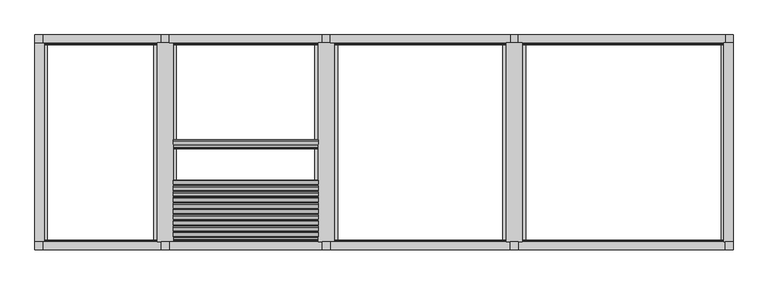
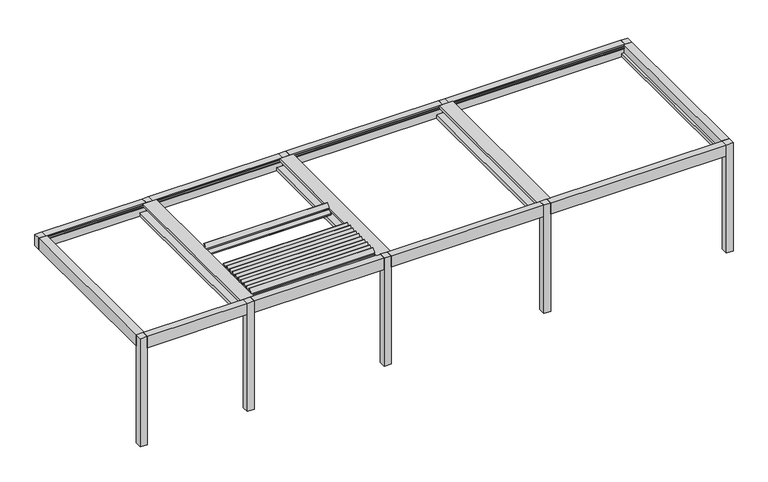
"""IFC4 building model written with IfcOpenShell, lengths in millimetres: proxy geometry, Renson_Camargue_Skye_Facade-Mounted_Patio covers : Renson_Camargue_Skye_Facade-Mounted_Patio covers."""

import ifcopenshell
import ifcopenshell.guid

model = None  # the IFC model being written
_history = None  # IfcOwnerHistory: only IFC2X3 demands one
_inside = {}  # id of a spatial element -> (the spatial element, [elements in it])
_under = {}  # id of a project, library or spatial element -> (it, [spatial elements below it])
_declared = {}  # id of a project -> (the project, [libraries it declares])
_typed = {}  # id of a type object -> (the type object, [elements of that type])
_made_of = {}  # id of a material, layer set ... -> (it, [elements and type objects made of it])


def new_model(schema):
    """Start an empty IFC model of exactly this schema.

    Asked for "IFC4X3", IfcOpenShell would pick the latest addendum, in which some entities
    have other attributes; the version numbers below select the first issue.
    IFC2X3 requires an IfcOwnerHistory on every rooted entity: one is made here for all.
    """
    global model, _history
    if schema == "IFC4X3":
        model = ifcopenshell.file(schema_version=(4, 3, 0, 0))
    else:
        model = ifcopenshell.file(schema=schema)
    _inside.clear()
    _under.clear()
    _declared.clear()
    _typed.clear()
    _made_of.clear()
    _history = None
    if model.schema == "IFC2X3":
        org = make("IfcOrganization", Name="unknown")
        user = make(
            "IfcPersonAndOrganization",
            ThePerson=make("IfcPerson", FamilyName="unknown"),
            TheOrganization=org,
        )
        app = make(
            "IfcApplication",
            ApplicationDeveloper=org,
            Version="unknown",
            ApplicationFullName="unknown",
            ApplicationIdentifier="unknown",
        )
        _history = make(
            "IfcOwnerHistory",
            OwningUser=user,
            OwningApplication=app,
            ChangeAction="ADDED",
            CreationDate=0,
        )
    return model


def make(cls, **values):
    """One entity of the class cls with the attributes given. An attribute that is None is left unset."""
    return model.create_entity(
        cls, **{name: value for name, value in values.items() if value is not None}
    )


def rooted(cls, **values):
    """An entity with a GlobalId (a new one), such as an element, a storey or a relation."""
    return make(cls, GlobalId=ifcopenshell.guid.new(), OwnerHistory=_history, **values)


def si_unit(unit_type, name, prefix=None):
    """IfcSIUnit, for example si_unit("LENGTHUNIT", "METRE", prefix="MILLI")."""
    return make("IfcSIUnit", UnitType=unit_type, Prefix=prefix, Name=name)


def assignment(units):
    """IfcUnitAssignment: the units of a project."""
    return None if units is None else make("IfcUnitAssignment", Units=units)


def point(xyz):
    """IfcCartesianPoint."""
    return None if xyz is None else make("IfcCartesianPoint", Coordinates=xyz)


def direction(xyz):
    """IfcDirection."""
    return None if xyz is None else make("IfcDirection", DirectionRatios=xyz)


def frame(location, z_axis=None, x_axis=None):
    """IfcAxis2Placement3D, a coordinate frame: its origin and axes. An axis left out is left unset."""
    return make(
        "IfcAxis2Placement3D",
        Location=point(location),
        Axis=direction(z_axis),
        RefDirection=direction(x_axis),
    )


def frame_2d(location, x_axis=None):
    """IfcAxis2Placement2D, a coordinate frame in the plane: its origin and x axis."""
    return make(
        "IfcAxis2Placement2D", Location=point(location), RefDirection=direction(x_axis)
    )


def origin():
    """The frame at (0, 0, 0) with its axes left unset."""
    return frame((0.0, 0.0, 0.0))


def origin_with_axes():
    """The frame at (0, 0, 0) with the z axis (0, 0, 1) and the x axis (1, 0, 0) written out."""
    return frame((0.0, 0.0, 0.0), z_axis=(0.0, 0.0, 1.0), x_axis=(1.0, 0.0, 0.0))


def place(relative_to, where):
    """IfcLocalPlacement: puts the frame where relative to a parent placement (None: the world)."""
    return make(
        "IfcLocalPlacement", PlacementRelTo=relative_to, RelativePlacement=where
    )


def context(
    kind, dimensions, precision=None, world=None, true_north=None, identifier=None
):
    """IfcGeometricRepresentationContext, for example the 3D "Model" context."""
    return make(
        "IfcGeometricRepresentationContext",
        ContextIdentifier=identifier,
        ContextType=kind,
        CoordinateSpaceDimension=dimensions,
        Precision=precision,
        WorldCoordinateSystem=world,
        TrueNorth=true_north,
    )


def project(units=None, contexts=None):
    """IfcProject with its units and contexts."""
    return rooted(
        "IfcProject",
        Name="project",
        RepresentationContexts=contexts,
        UnitsInContext=assignment(units),
    )


def spatial(cls, under=None, at=None, **own):
    """A site, building, storey or space (cls), placed at a placement, below another one or the project."""
    s = rooted(cls, ObjectPlacement=at, **own)
    if under is not None:
        _under.setdefault(under.id(), (under, []))[1].append(s)
    return s


def polyline(points):
    """IfcPolyline through the points."""
    return make("IfcPolyline", Points=[point(p) for p in points])


def circle_curve(where, radius):
    """IfcCircle in the frame where."""
    return make("IfcCircle", Position=where, Radius=radius)


def trimmed(basis, trim1, trim2, sense, master):
    """IfcTrimmedCurve: the piece of a basis curve between two trims."""
    return make(
        "IfcTrimmedCurve",
        BasisCurve=basis,
        Trim1=trim1,
        Trim2=trim2,
        SenseAgreement=sense,
        MasterRepresentation=master,
    )


def segment(curve, same_sense, transition):
    """IfcCompositeCurveSegment."""
    return make(
        "IfcCompositeCurveSegment",
        Transition=transition,
        SameSense=same_sense,
        ParentCurve=curve,
    )


def composite_curve(segments, self_intersect=None):
    """IfcCompositeCurve: segments joined end to end."""
    return make("IfcCompositeCurve", Segments=segments, SelfIntersect=self_intersect)


def outline(outer, holes=None, kind="AREA"):
    """IfcArbitraryClosedProfileDef: a profile drawn as a closed curve; with holes, ...WithVoids."""
    if holes is None:
        return make("IfcArbitraryClosedProfileDef", ProfileType=kind, OuterCurve=outer)
    return make(
        "IfcArbitraryProfileDefWithVoids",
        ProfileType=kind,
        OuterCurve=outer,
        InnerCurves=holes,
    )


def extrude(swept, where, along, depth):
    """IfcExtrudedAreaSolid: the profile swept, set in the frame where, extruded along a direction by depth."""
    return make(
        "IfcExtrudedAreaSolid",
        SweptArea=swept,
        Position=where,
        ExtrudedDirection=direction(along),
        Depth=depth,
    )


def shape(context_of_items, identifier, shape_type, items):
    """IfcShapeRepresentation: the items that make up one representation, for example the "Body"."""
    return make(
        "IfcShapeRepresentation",
        ContextOfItems=context_of_items,
        RepresentationIdentifier=identifier,
        RepresentationType=shape_type,
        Items=items,
    )


def source(mapping_origin, context_of_items, identifier, shape_type, items):
    """IfcRepresentationMap: a shape defined once, which mapped items show again and again."""
    return make(
        "IfcRepresentationMap",
        MappingOrigin=mapping_origin,
        MappedRepresentation=shape(context_of_items, identifier, shape_type, items),
    )


def transform(
    local_origin,
    x_axis=None,
    y_axis=None,
    z_axis=None,
    scale=None,
    scale2=None,
    scale3=None,
    uniform=True,
):
    """IfcCartesianTransformationOperator3D, or its non-uniform kind. x_axis, y_axis, z_axis: its Axis1, 2, 3."""
    if uniform:
        return make(
            "IfcCartesianTransformationOperator3D",
            Axis1=direction(x_axis),
            Axis2=direction(y_axis),
            LocalOrigin=point(local_origin),
            Scale=scale,
            Axis3=direction(z_axis),
        )
    return make(
        "IfcCartesianTransformationOperator3DnonUniform",
        Axis1=direction(x_axis),
        Axis2=direction(y_axis),
        LocalOrigin=point(local_origin),
        Scale=scale,
        Axis3=direction(z_axis),
        Scale2=scale2,
        Scale3=scale3,
    )


def mapped(mapping_source, mapping_target):
    """IfcMappedItem: shows the shape of a source again, moved by a transform."""
    return make(
        "IfcMappedItem", MappingSource=mapping_source, MappingTarget=mapping_target
    )


def made_of(thing, what):
    """Note that an element or type object is made of a material, layer set ...; save() writes the relation."""
    if what is not None:
        _made_of.setdefault(what.id(), (what, []))[1].append(thing)
    return thing


def element(
    cls,
    number,
    at=None,
    inside=None,
    cuts=None,
    type_object=None,
    material=None,
    context=None,
    identifier="Body",
    shape_type=None,
    held_by="IfcProductDefinitionShape",
    body=None,
    shapes=None,
    **own,
):
    """One element of the class cls, such as IfcWall. Its Tag is "e" and its number.

    at: its placement. inside: the storey or other place that contains it. cuts: it is an
    opening in that element (IfcRelVoidsElement). A single representation is given by context,
    identifier, shape_type and body (its items); several are given by shapes. held_by: the class
    of the entity that holds the representations. save() writes the other relations.
    """
    e = rooted(cls, Tag="e%d" % number, ObjectPlacement=at, **own)
    if body is not None:
        shapes = [shape(context, identifier, shape_type, body)]
    if shapes is not None:
        e.Representation = make(held_by, Representations=shapes)
    if inside is not None:
        _inside.setdefault(inside.id(), (inside, []))[1].append(e)
    if cuts is not None:
        rooted(
            "IfcRelVoidsElement", RelatingBuildingElement=cuts, RelatedOpeningElement=e
        )
    if type_object is not None:
        _typed.setdefault(type_object.id(), (type_object, []))[1].append(e)
    return made_of(e, material)


def aggregate(whole, parts):
    """IfcRelAggregates: a whole, such as a stair, and the parts it consists of."""
    return rooted("IfcRelAggregates", RelatingObject=whole, RelatedObjects=parts)


def save(model, path):
    """Write the relations noted so far, then the file.

    IfcRelAggregates (storeys below a building ...), IfcRelContainedInSpatialStructure (elements
    in a storey), IfcRelDefinesByType, IfcRelAssociatesMaterial and IfcRelDeclares: one each for
    every whole, place, type object, material and project.
    """
    for whole, parts in _under.values():
        aggregate(whole, parts)
    for where, things in _inside.values():
        rooted(
            "IfcRelContainedInSpatialStructure",
            RelatedElements=things,
            RelatingStructure=where,
        )
    for kind, things in _typed.values():
        rooted("IfcRelDefinesByType", RelatedObjects=things, RelatingType=kind)
    for what, things in _made_of.values():
        rooted("IfcRelAssociatesMaterial", RelatedObjects=things, RelatingMaterial=what)
    for by, libraries in _declared.values():
        rooted("IfcRelDeclares", RelatingContext=by, RelatedDefinitions=libraries)
    model.write(path)


def generic_models_c182b0fb(model_context):
    return source(origin(), model_context, "Body", "SweptSolid", [
        extrude(outline(composite_curve([segment(polyline([(-704.7212384, 2532.0835122), (-851.8670993, 2384.9376513), (-869.9306875, 2406.4649975), (-859.6471169, 2417.7863257), (-845.4411429, 2407.8391957), (-783.4025807, 2469.8777579), (-794.6023565, 2485.8726953)]), True, "CONTINUOUS"), segment(trimmed(circle_curve(frame_2d((-782.3150759, 2494.4763419)), 15.0), [point((-794.6023565, 2485.8726953))], [point((-793.4183478, 2504.561844))], False, "CARTESIAN"), True, "CONTINUOUS"), segment(polyline([(-793.4183478, 2504.561844), (-719.3746691, 2586.077577), (-703.1597177, 2574.7237457), (-722.569936, 2553.3547618), (-704.7212384, 2532.0835122)]), True, "CONTINUOUS")], self_intersect=False)), frame((1323.0, 0.0, 0.0), z_axis=(1.0, 0.0, 0.0), x_axis=(0.0, 1.0, 0.0)), (0.0, 0.0, 1.0), 2705.0),
        extrude(outline(composite_curve([segment(polyline([(-812.2320431, 2532.0835122), (-959.3779041, 2384.9376513), (-977.4414923, 2406.4649975), (-967.1579217, 2417.7863257), (-952.9519477, 2407.8391957), (-890.9133855, 2469.8777579), (-902.1131613, 2485.8726953)]), True, "CONTINUOUS"), segment(trimmed(circle_curve(frame_2d((-889.8258807, 2494.4763419)), 15.0), [point((-902.1131613, 2485.8726953))], [point((-900.9291526, 2504.561844))], False, "CARTESIAN"), True, "CONTINUOUS"), segment(polyline([(-900.9291526, 2504.561844), (-826.8854739, 2586.077577), (-810.6705224, 2574.7237457), (-830.0807408, 2553.3547618), (-812.2320431, 2532.0835122)]), True, "CONTINUOUS")], self_intersect=False)), frame((1323.0, 0.0, 0.0), z_axis=(1.0, 0.0, 0.0), x_axis=(0.0, 1.0, 0.0)), (0.0, 0.0, 1.0), 2705.0),
        extrude(outline(composite_curve([segment(polyline([(-919.7428479, 2532.0835122), (-1066.8887088, 2384.9376513), (-1084.9522971, 2406.4649975), (-1074.6687265, 2417.7863257), (-1060.4627525, 2407.8391957), (-998.4241903, 2469.8777579), (-1009.6239661, 2485.8726953)]), True, "CONTINUOUS"), segment(trimmed(circle_curve(frame_2d((-997.3366854, 2494.4763419)), 15.0), [point((-1009.6239661, 2485.8726953))], [point((-1008.4399574, 2504.561844))], False, "CARTESIAN"), True, "CONTINUOUS"), segment(polyline([(-1008.4399574, 2504.561844), (-934.3962787, 2586.077577), (-918.1813272, 2574.7237457), (-937.5915456, 2553.3547618), (-919.7428479, 2532.0835122)]), True, "CONTINUOUS")], self_intersect=False)), frame((1323.0, 0.0, 0.0), z_axis=(1.0, 0.0, 0.0), x_axis=(0.0, 1.0, 0.0)), (0.0, 0.0, 1.0), 2705.0),
        extrude(outline(composite_curve([segment(polyline([(-1027.2536527, 2532.0835122), (-1174.3995136, 2384.9376513), (-1192.4631018, 2406.4649975), (-1182.1795313, 2417.7863257), (-1167.9735573, 2407.8391957), (-1105.9349951, 2469.8777579), (-1117.1347709, 2485.8726953)]), True, "CONTINUOUS"), segment(trimmed(circle_curve(frame_2d((-1104.8474902, 2494.4763419)), 15.0), [point((-1117.1347709, 2485.8726953))], [point((-1115.9507621, 2504.561844))], False, "CARTESIAN"), True, "CONTINUOUS"), segment(polyline([(-1115.9507621, 2504.561844), (-1041.9070835, 2586.077577), (-1025.692132, 2574.7237457), (-1045.1023504, 2553.3547618), (-1027.2536527, 2532.0835122)]), True, "CONTINUOUS")], self_intersect=False)), frame((1323.0, 0.0, 0.0), z_axis=(1.0, 0.0, 0.0), x_axis=(0.0, 1.0, 0.0)), (0.0, 0.0, 1.0), 2705.0),
        extrude(outline(composite_curve([segment(polyline([(-1134.7644575, 2532.0835122), (-1281.9103184, 2384.9376513), (-1299.9739066, 2406.4649975), (-1289.6903361, 2417.7863257), (-1275.4843621, 2407.8391957), (-1213.4457999, 2469.8777579), (-1224.6455757, 2485.8726953)]), True, "CONTINUOUS"), segment(trimmed(circle_curve(frame_2d((-1212.358295, 2494.4763419)), 15.0), [point((-1224.6455757, 2485.8726953))], [point((-1223.4615669, 2504.561844))], False, "CARTESIAN"), True, "CONTINUOUS"), segment(polyline([(-1223.4615669, 2504.561844), (-1149.4178883, 2586.077577), (-1133.2029368, 2574.7237457), (-1152.6131551, 2553.3547618), (-1134.7644575, 2532.0835122)]), True, "CONTINUOUS")], self_intersect=False)), frame((1323.0, 0.0, 0.0), z_axis=(1.0, 0.0, 0.0), x_axis=(0.0, 1.0, 0.0)), (0.0, 0.0, 1.0), 2705.0),
        extrude(outline(composite_curve([segment(polyline([(-1242.2752623, 2532.0835122), (-1389.4211232, 2384.9376513), (-1407.4847114, 2406.4649975), (-1397.2011408, 2417.7863257), (-1382.9951668, 2407.8391957), (-1320.9566047, 2469.8777579), (-1332.1563804, 2485.8726953)]), True, "CONTINUOUS"), segment(trimmed(circle_curve(frame_2d((-1319.8690998, 2494.4763419)), 15.0), [point((-1332.1563804, 2485.8726953))], [point((-1330.9723717, 2504.561844))], False, "CARTESIAN"), True, "CONTINUOUS"), segment(polyline([(-1330.9723717, 2504.561844), (-1256.9286931, 2586.077577), (-1240.7137416, 2574.7237457), (-1260.1239599, 2553.3547618), (-1242.2752623, 2532.0835122)]), True, "CONTINUOUS")], self_intersect=False)), frame((1323.0, 0.0, 0.0), z_axis=(1.0, 0.0, 0.0), x_axis=(0.0, 1.0, 0.0)), (0.0, 0.0, 1.0), 2705.0),
        extrude(outline(composite_curve([segment(polyline([(-1349.786067, 2532.0835122), (-1496.931928, 2384.9376513), (-1514.9955162, 2406.4649975), (-1504.7119456, 2417.7863257), (-1490.5059716, 2407.8391957), (-1428.4674094, 2469.8777579), (-1439.6671852, 2485.8726953)]), True, "CONTINUOUS"), segment(trimmed(circle_curve(frame_2d((-1427.3799046, 2494.4763419)), 15.0), [point((-1439.6671852, 2485.8726953))], [point((-1438.4831765, 2504.561844))], False, "CARTESIAN"), True, "CONTINUOUS"), segment(polyline([(-1438.4831765, 2504.561844), (-1364.4394978, 2586.077577), (-1348.2245463, 2574.7237457), (-1367.6347647, 2553.3547618), (-1349.786067, 2532.0835122)]), True, "CONTINUOUS")], self_intersect=False)), frame((1323.0, 0.0, 0.0), z_axis=(1.0, 0.0, 0.0), x_axis=(0.0, 1.0, 0.0)), (0.0, 0.0, 1.0), 2705.0),
        extrude(outline(composite_curve([segment(polyline([(-1457.2968718, 2532.0835122), (-1604.4427327, 2384.9376513), (-1622.506321, 2406.4649975), (-1612.2227504, 2417.7863257), (-1598.0167764, 2407.8391957), (-1535.9782142, 2469.8777579), (-1547.17799, 2485.8726953)]), True, "CONTINUOUS"), segment(trimmed(circle_curve(frame_2d((-1534.8907093, 2494.4763419)), 15.0), [point((-1547.17799, 2485.8726953))], [point((-1545.9939813, 2504.561844))], False, "CARTESIAN"), True, "CONTINUOUS"), segment(polyline([(-1545.9939813, 2504.561844), (-1471.9503026, 2586.077577), (-1455.7353511, 2574.7237457), (-1475.1455695, 2553.3547618), (-1457.2968718, 2532.0835122)]), True, "CONTINUOUS")], self_intersect=False)), frame((1323.0, 0.0, 0.0), z_axis=(1.0, 0.0, 0.0), x_axis=(0.0, 1.0, 0.0)), (0.0, 0.0, 1.0), 2705.0),
        extrude(outline(composite_curve([segment(polyline([(-1564.8076766, 2532.0835122), (-1711.9535375, 2384.9376513), (-1730.0171257, 2406.4649975), (-1719.7335552, 2417.7863257), (-1705.5275812, 2407.8391957), (-1643.489019, 2469.8777579), (-1654.6887948, 2485.8726953)]), True, "CONTINUOUS"), segment(trimmed(circle_curve(frame_2d((-1642.4015141, 2494.4763419)), 15.0), [point((-1654.6887948, 2485.8726953))], [point((-1653.504786, 2504.561844))], False, "CARTESIAN"), True, "CONTINUOUS"), segment(polyline([(-1653.504786, 2504.561844), (-1579.4611074, 2586.077577), (-1563.2461559, 2574.7237457), (-1582.6563743, 2553.3547618), (-1564.8076766, 2532.0835122)]), True, "CONTINUOUS")], self_intersect=False)), frame((1323.0, 0.0, 0.0), z_axis=(1.0, 0.0, 0.0), x_axis=(0.0, 1.0, 0.0)), (0.0, 0.0, 1.0), 2705.0),
        extrude(outline(composite_curve([segment(polyline([(47.8543951, 2532.0835122), (-99.2914658, 2384.9376513), (-117.355054, 2406.4649975), (-107.0714835, 2417.7863257), (-92.8655095, 2407.8391957), (-30.8269473, 2469.8777579), (-42.0267231, 2485.8726953)]), True, "CONTINUOUS"), segment(trimmed(circle_curve(frame_2d((-29.7394424, 2494.4763419)), 15.0), [point((-42.0267231, 2485.8726953))], [point((-40.8427143, 2504.561844))], False, "CARTESIAN"), True, "CONTINUOUS"), segment(polyline([(-40.8427143, 2504.561844), (33.2009643, 2586.077577), (49.4159158, 2574.7237457), (30.0056975, 2553.3547618), (47.8543951, 2532.0835122)]), True, "CONTINUOUS")], self_intersect=False)), frame((1323.0, 0.0, 0.0), z_axis=(1.0, 0.0, 0.0), x_axis=(0.0, 1.0, 0.0)), (0.0, 0.0, 1.0), 2705.0),
        extrude(outline(composite_curve([segment(polyline([(-1672.3184814, 2532.0835122), (-1819.4643423, 2384.9376513), (-1837.5279305, 2406.4649975), (-1827.24436, 2417.7863257), (-1813.038386, 2407.8391957), (-1750.9998238, 2469.8777579), (-1762.1995996, 2485.8726953)]), True, "CONTINUOUS"), segment(trimmed(circle_curve(frame_2d((-1749.9123189, 2494.4763419)), 15.0), [point((-1762.1995996, 2485.8726953))], [point((-1761.0155908, 2504.561844))], False, "CARTESIAN"), True, "CONTINUOUS"), segment(polyline([(-1761.0155908, 2504.561844), (-1686.9719122, 2586.077577), (-1670.7569607, 2574.7237457), (-1690.1671791, 2553.3547618), (-1672.3184814, 2532.0835122)]), True, "CONTINUOUS")], self_intersect=False)), frame((1323.0, 0.0, 0.0), z_axis=(1.0, 0.0, 0.0), x_axis=(0.0, 1.0, 0.0)), (0.0, 0.0, 1.0), 2705.0),
        extrude(outline(polyline([(-1100.0, -2000.0), (-1250.0, -2000.0), (-1250.0, -1850.0), (-1100.0, -1850.0), (-1100.0, -2000.0)])), origin_with_axes(), (0.0, 0.0, 1.0), 2510.0),
        extrude(outline(polyline([(11750.0, -2000.0), (11600.0, -2000.0), (11600.0, -1850.0), (11750.0, -1850.0), (11750.0, -2000.0)])), origin_with_axes(), (0.0, 0.0, 1.0), 2510.0),
        extrude(outline(polyline([(7750.0, -2000.0), (7600.0, -2000.0), (7600.0, -1850.0), (7750.0, -1850.0), (7750.0, -2000.0)])), origin_with_axes(), (0.0, 0.0, 1.0), 2510.0),
        extrude(outline(polyline([(4250.0, -2000.0), (4100.0, -2000.0), (4100.0, -1850.0), (4250.0, -1850.0), (4250.0, -2000.0)])), origin_with_axes(), (0.0, 0.0, 1.0), 2510.0),
        extrude(outline(polyline([(1250.0, -2000.0), (1100.0, -2000.0), (1100.0, -1850.0), (1250.0, -1850.0), (1250.0, -2000.0)])), origin_with_axes(), (0.0, 0.0, 1.0), 2510.0),
        extrude(outline(polyline([(2250.0, 7885.0), (2322.0, 7885.0), (2322.0, 7695.0), (2456.0, 7695.0), (2456.0, 7823.0), (2510.0, 7823.0), (2510.0, 7527.0), (2456.0, 7527.0), (2456.0, 7655.0), (2322.0, 7655.0), (2322.0, 7465.0), (2250.0, 7465.0), (2250.0, 7885.0)])), frame((0.0, -1850.0, 0.0), z_axis=(0.0, 1.0, 0.0), x_axis=(0.0, 0.0, 1.0)), (0.0, 0.0, 1.0), 3700.0),
        extrude(outline(polyline([(2510.0, 11580.0), (2322.0, 11580.0), (2322.0, 11530.0), (2250.0, 11530.0), (2250.0, 11750.0), (2510.0, 11750.0), (2510.0, 11580.0)])), frame((0.0, -1850.0, 0.0), z_axis=(0.0, 1.0, 0.0), x_axis=(0.0, 0.0, 1.0)), (0.0, 0.0, 1.0), 3700.0),
        extrude(outline(polyline([(-1850.0, 2441.6559373), (-1850.0, 2479.6823598), (-1845.0, 2479.2449277), (-1845.0, 2471.400763), (-1829.5940945, 2455.6555802), (-1820.2487113, 2455.6555802), (-1824.0, 2441.6559373), (-1850.0, 2441.6559373)])), frame((7750.0, 0.0, 0.0), z_axis=(1.0, 0.0, 0.0), x_axis=(0.0, 1.0, 0.0)), (0.0, 0.0, 1.0), 3850.0),
        extrude(outline(polyline([(11600.0, -2000.0), (7750.0, -2000.0), (7750.0, -1850.0), (11600.0, -1850.0), (11600.0, -2000.0)])), frame((0.0, 0.0, 2250.0), z_axis=(0.0, 0.0, 1.0), x_axis=(1.0, 0.0, 0.0)), (0.0, 0.0, 1.0), 260.0),
        extrude(outline(polyline([(2000.0, 2250.0), (1850.0, 2250.0), (1850.0, 2441.6559373), (1823.6603211, 2441.6559373), (1819.9090324, 2455.6555802), (1829.2544156, 2455.6555802), (1845.0, 2471.400763), (1845.0, 2479.2449277), (1850.0, 2479.6823598), (1850.0, 2510.0), (2000.0, 2510.0), (2000.0, 2250.0)])), frame((7750.0, 0.0, 0.0), z_axis=(1.0, 0.0, 0.0), x_axis=(0.0, 1.0, 0.0)), (0.0, 0.0, 1.0), 3850.0),
        extrude(outline(polyline([(11750.0, 1850.0), (11600.0, 1850.0), (11600.0, 2000.0), (11750.0, 2000.0), (11750.0, 1850.0)])), frame((0.0, 0.0, 2250.0), z_axis=(0.0, 0.0, 1.0), x_axis=(1.0, 0.0, 0.0)), (0.0, 0.0, 1.0), 260.0),
        extrude(outline(polyline([(-1850.0, 2441.6559373), (-1850.0, 2479.6823598), (-1845.0, 2479.2449277), (-1845.0, 2471.400763), (-1829.5940945, 2455.6555802), (-1820.2487113, 2455.6555802), (-1824.0, 2441.6559373), (-1850.0, 2441.6559373)])), frame((4250.0, 0.0, 0.0), z_axis=(1.0, 0.0, 0.0), x_axis=(0.0, 1.0, 0.0)), (0.0, 0.0, 1.0), 3350.0),
        extrude(outline(polyline([(1850.0, 2479.6823598), (1850.0, 2510.0), (2000.0, 2510.0), (2000.0, 2250.0), (1850.0, 2250.0), (1850.0, 2441.6559373), (1823.6603211, 2441.6559373), (1819.9090324, 2455.6555802), (1829.2544156, 2455.6555802), (1845.0, 2471.400763), (1845.0, 2479.2449277), (1850.0, 2479.6823598)])), frame((4250.0, 0.0, 0.0), z_axis=(1.0, 0.0, 0.0), x_axis=(0.0, 1.0, 0.0)), (0.0, 0.0, 1.0), 3350.0),
        extrude(outline(polyline([(7600.0, -2000.0), (4250.0, -2000.0), (4250.0, -1850.0), (7600.0, -1850.0), (7600.0, -2000.0)])), frame((0.0, 0.0, 2250.0), z_axis=(0.0, 0.0, 1.0), x_axis=(1.0, 0.0, 0.0)), (0.0, 0.0, 1.0), 260.0),
        extrude(outline(polyline([(2250.0, 4385.0), (2322.0, 4385.0), (2322.0, 4195.0), (2456.0, 4195.0), (2456.0, 4323.0), (2510.0, 4323.0), (2510.0, 4027.0), (2456.0, 4027.0), (2456.0, 4155.0), (2322.0, 4155.0), (2322.0, 3965.0), (2250.0, 3965.0), (2250.0, 4385.0)])), frame((0.0, -1850.0, 0.0), z_axis=(0.0, 1.0, 0.0), x_axis=(0.0, 0.0, 1.0)), (0.0, 0.0, 1.0), 3700.0),
        extrude(outline(polyline([(7750.0, -2000.0), (7600.0, -2000.0), (7600.0, -1850.0), (7750.0, -1850.0), (7750.0, -2000.0)])), frame((0.0, 0.0, 2250.0), z_axis=(0.0, 0.0, 1.0), x_axis=(1.0, 0.0, 0.0)), (0.0, 0.0, 1.0), 260.0),
        extrude(outline(polyline([(7750.0, 2000.0), (7750.0, 1850.0), (7600.0, 1850.0), (7600.0, 2000.0), (7750.0, 2000.0)])), frame((0.0, 0.0, 2250.0), z_axis=(0.0, 0.0, 1.0), x_axis=(1.0, 0.0, 0.0)), (0.0, 0.0, 1.0), 260.0),
        extrude(outline(polyline([(-1850.0, 2441.6559373), (-1850.0, 2479.6823598), (-1845.0, 2479.2449277), (-1845.0, 2471.400763), (-1829.5940945, 2455.6555802), (-1820.2487113, 2455.6555802), (-1824.0, 2441.6559373), (-1850.0, 2441.6559373)])), frame((1250.0, 0.0, 0.0), z_axis=(1.0, 0.0, 0.0), x_axis=(0.0, 1.0, 0.0)), (0.0, 0.0, 1.0), 2850.0),
        extrude(outline(polyline([(4250.0, 2000.0), (4250.0, 1850.0), (4100.0, 1850.0), (4100.0, 2000.0), (4250.0, 2000.0)])), frame((0.0, 0.0, 2250.0), z_axis=(0.0, 0.0, 1.0), x_axis=(1.0, 0.0, 0.0)), (0.0, 0.0, 1.0), 260.0),
        extrude(outline(polyline([(4100.0, -2000.0), (1250.0, -2000.0), (1250.0, -1850.0), (4100.0, -1850.0), (4100.0, -2000.0)])), frame((0.0, 0.0, 2250.0), z_axis=(0.0, 0.0, 1.0), x_axis=(1.0, 0.0, 0.0)), (0.0, 0.0, 1.0), 260.0),
        extrude(outline(polyline([(1850.0, 2250.0), (1850.0, 2441.6559373), (1823.6603211, 2441.6559373), (1819.9090324, 2455.6555802), (1829.2544156, 2455.6555802), (1845.0, 2471.400763), (1845.0, 2479.2449277), (1850.0, 2479.6823598), (1850.0, 2510.0), (2000.0, 2510.0), (2000.0, 2250.0), (1850.0, 2250.0)])), frame((1250.0, 0.0, 0.0), z_axis=(1.0, 0.0, 0.0), x_axis=(0.0, 1.0, 0.0)), (0.0, 0.0, 1.0), 2850.0),
        extrude(outline(polyline([(2510.0, 1027.0), (2456.0, 1027.0), (2456.0, 1155.0), (2322.0, 1155.0), (2322.0, 965.0), (2250.0, 965.0), (2250.0, 1385.0), (2322.0, 1385.0), (2322.0, 1195.0), (2456.0, 1195.0), (2456.0, 1323.0), (2510.0, 1323.0), (2510.0, 1027.0)])), frame((0.0, -1850.0, 0.0), z_axis=(0.0, 1.0, 0.0), x_axis=(0.0, 0.0, 1.0)), (0.0, 0.0, 1.0), 3700.0),
        extrude(outline(polyline([(-1850.0, 2441.6559373), (-1850.0, 2479.6823598), (-1845.0, 2479.2449277), (-1845.0, 2471.400763), (-1829.5940945, 2455.6555802), (-1820.2487113, 2455.6555802), (-1824.0, 2441.6559373), (-1850.0, 2441.6559373)])), frame((-1100.0, 0.0, 0.0), z_axis=(1.0, 0.0, 0.0), x_axis=(0.0, 1.0, 0.0)), (0.0, 0.0, 1.0), 2200.0),
        extrude(outline(polyline([(1250.0, 1850.0), (1100.0, 1850.0), (1100.0, 2000.0), (1250.0, 2000.0), (1250.0, 1850.0)])), frame((0.0, 0.0, 2250.0), z_axis=(0.0, 0.0, 1.0), x_axis=(1.0, 0.0, 0.0)), (0.0, 0.0, 1.0), 260.0),
        extrude(outline(polyline([(-1100.0, 1850.0), (-1250.0, 1850.0), (-1250.0, 2000.0), (-1100.0, 2000.0), (-1100.0, 1850.0)])), frame((0.0, 0.0, 2250.0), z_axis=(0.0, 0.0, 1.0), x_axis=(1.0, 0.0, 0.0)), (0.0, 0.0, 1.0), 260.0),
        extrude(outline(polyline([(1850.0, 2510.0), (2000.0, 2510.0), (2000.0, 2250.0), (1850.0, 2250.0), (1850.0, 2441.6559373), (1823.6603211, 2441.6559373), (1819.9090324, 2455.6555802), (1829.2544156, 2455.6555802), (1845.0, 2471.400763), (1845.0, 2479.2449277), (1850.0, 2479.6823598), (1850.0, 2510.0)])), frame((-1100.0, 0.0, 0.0), z_axis=(1.0, 0.0, 0.0), x_axis=(0.0, 1.0, 0.0)), (0.0, 0.0, 1.0), 2200.0),
        extrude(outline(polyline([(1100.0, -2000.0), (-1100.0, -2000.0), (-1100.0, -1850.0), (1100.0, -1850.0), (1100.0, -2000.0)])), frame((0.0, 0.0, 2250.0), z_axis=(0.0, 0.0, 1.0), x_axis=(1.0, 0.0, 0.0)), (0.0, 0.0, 1.0), 260.0),
        extrude(outline(polyline([(2510.0, -1080.0), (2510.0, -1250.0), (2250.0, -1250.0), (2250.0, -1020.0), (2322.0, -1020.0), (2322.0, -1080.0), (2510.0, -1080.0)])), frame((0.0, -1850.0, 0.0), z_axis=(0.0, 1.0, 0.0), x_axis=(0.0, 0.0, 1.0)), (0.0, 0.0, 1.0), 3700.0),
    ])


if __name__ == "__main__":
    model = new_model("IFC4")
    model_context = context("Model", 3, world=origin())
    ifc_project = project(units=[si_unit("LENGTHUNIT", "METRE", prefix="MILLI")], contexts=[model_context])
    site = spatial("IfcSite", under=ifc_project)
    building = spatial("IfcBuilding", under=site)
    placement = place(None, origin())
    generic_models_shape = generic_models_c182b0fb(model_context)
    element("IfcBuildingElementProxy", 1, Name="Renson_Camargue_Skye_Facade-Mounted_Patio covers : Renson_Camargue_Skye_Facade-Mounted_Patio covers", ObjectType="Renson_Camargue_Skye_Facade-Mounted_Patio covers : Renson_Camargue_Skye_Facade-Mounted_Patio covers", at=placement, inside=building, context=model_context, shape_type="MappedRepresentation", body=[
        mapped(generic_models_shape, transform((0.0, 0.0, 0.0), x_axis=(1.0, 0.0, 0.0), y_axis=(0.0, 1.0, 0.0), z_axis=(0.0, 0.0, 1.0))),
    ])
    save(model, "model.ifc")
